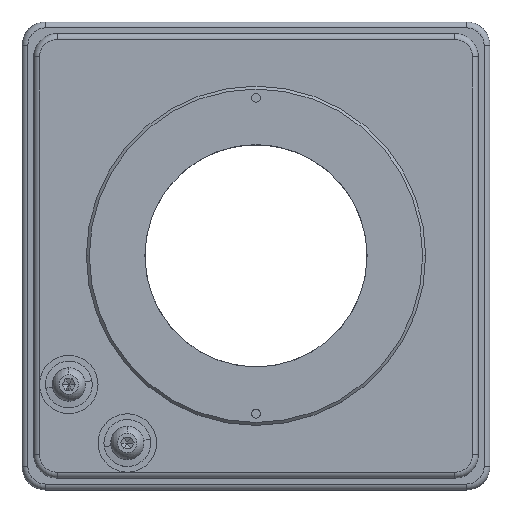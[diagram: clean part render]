
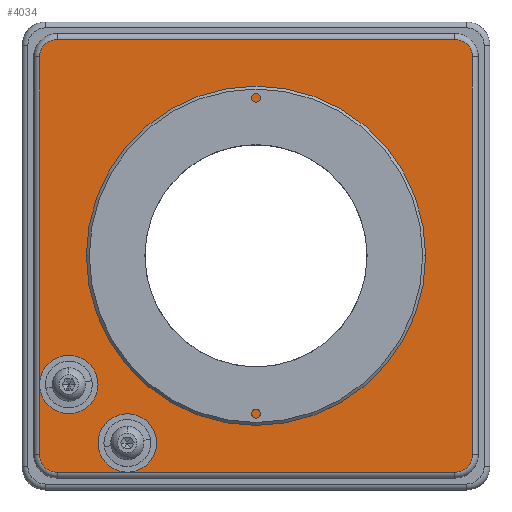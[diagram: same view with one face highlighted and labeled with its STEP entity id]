
A CAD part, top view. The second image highlights one B-rep face of the part: STEP entity #4034.
In plain terms, the highlighted planar face has unit normal (0, 0, 1).
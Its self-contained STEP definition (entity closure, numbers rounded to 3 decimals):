
#60 = VERTEX_POINT ( 'NONE', #3739 ) ;
#125 = CARTESIAN_POINT ( 'NONE',  ( -37., -34., 18. ) ) ;
#128 = ORIENTED_EDGE ( 'NONE', *, *, #5477, .F. ) ;
#129 = DIRECTION ( 'NONE',  ( -1., 0., 0. ) ) ;
#141 = AXIS2_PLACEMENT_3D ( 'NONE', #5237, #952, #1555 ) ;
#289 = VERTEX_POINT ( 'NONE', #3455 ) ;
#306 = CIRCLE ( 'NONE', #5666, 25.25 ) ;
#319 = CIRCLE ( 'NONE', #3096, 3. ) ;
#342 = CIRCLE ( 'NONE', #141, 3. ) ;
#391 = CIRCLE ( 'NONE', #1786, 25.25 ) ;
#425 = CARTESIAN_POINT ( 'NONE',  ( -34., 37., 18. ) ) ;
#487 = DIRECTION ( 'NONE',  ( 1., 0., 0. ) ) ;
#625 = VERTEX_POINT ( 'NONE', #8260 ) ;
#719 = EDGE_CURVE ( 'NONE', #7145, #3128, #319, .T. ) ;
#785 = VERTEX_POINT ( 'NONE', #2627 ) ;
#801 = CARTESIAN_POINT ( 'NONE',  ( -37., -22., 18. ) ) ;
#805 = EDGE_CURVE ( 'NONE', #1335, #785, #2628, .T. ) ;
#845 = VERTEX_POINT ( 'NONE', #3897 ) ;
#864 = VECTOR ( 'NONE', #5216, 1000. ) ;
#872 = VERTEX_POINT ( 'NONE', #1355 ) ;
#952 = DIRECTION ( 'NONE',  ( 0., 0., 1. ) ) ;
#1029 = DIRECTION ( 'NONE',  ( 0., 0., 1. ) ) ;
#1032 = DIRECTION ( 'NONE',  ( 1., 0., 0. ) ) ;
#1168 = ORIENTED_EDGE ( 'NONE', *, *, #6174, .T. ) ;
#1185 = VECTOR ( 'NONE', #4415, 1000. ) ;
#1228 = CARTESIAN_POINT ( 'NONE',  ( -37., -34., 18. ) ) ;
#1276 = CARTESIAN_POINT ( 'NONE',  ( 0., 0., 18. ) ) ;
#1296 = VERTEX_POINT ( 'NONE', #2309 ) ;
#1322 = DIRECTION ( 'NONE',  ( 0., 0., 1. ) ) ;
#1325 = DIRECTION ( 'NONE',  ( 0., 0., 1. ) ) ;
#1335 = VERTEX_POINT ( 'NONE', #5122 ) ;
#1355 = CARTESIAN_POINT ( 'NONE',  ( -25.25, 0., 18. ) ) ;
#1399 = CARTESIAN_POINT ( 'NONE',  ( 37., 34., 18. ) ) ;
#1401 = DIRECTION ( 'NONE',  ( 0., -1., 0. ) ) ;
#1555 = DIRECTION ( 'NONE',  ( 1., 0., 0. ) ) ;
#1643 = EDGE_CURVE ( 'NONE', #785, #289, #1701, .T. ) ;
#1701 = LINE ( 'NONE', #425, #8336 ) ;
#1705 = CIRCLE ( 'NONE', #2509, 5. ) ;
#1722 = DIRECTION ( 'NONE',  ( 0., 0., 1. ) ) ;
#1786 = AXIS2_PLACEMENT_3D ( 'NONE', #1276, #5788, #1934 ) ;
#1853 = FACE_OUTER_BOUND ( 'NONE', #3756, .T. ) ;
#1897 = DIRECTION ( 'NONE',  ( 1., 0., 0. ) ) ;
#1902 = EDGE_CURVE ( 'NONE', #4104, #845, #6728, .T. ) ;
#1911 = LINE ( 'NONE', #2624, #5342 ) ;
#1934 = DIRECTION ( 'NONE',  ( 1., 0., 0. ) ) ;
#2127 = EDGE_CURVE ( 'NONE', #2440, #7145, #4701, .T. ) ;
#2163 = CARTESIAN_POINT ( 'NONE',  ( -17., -32., 18. ) ) ;
#2167 = LINE ( 'NONE', #125, #3670 ) ;
#2309 = CARTESIAN_POINT ( 'NONE',  ( -34., -37., 18. ) ) ;
#2348 = DIRECTION ( 'NONE',  ( 0., 0., 1. ) ) ;
#2413 = CIRCLE ( 'NONE', #6715, 5. ) ;
#2440 = VERTEX_POINT ( 'NONE', #7290 ) ;
#2501 = VERTEX_POINT ( 'NONE', #2163 ) ;
#2509 = AXIS2_PLACEMENT_3D ( 'NONE', #6819, #3597, #1032 ) ;
#2542 = PLANE ( 'NONE',  #6022 ) ;
#2624 = CARTESIAN_POINT ( 'NONE',  ( 34., -37., 18. ) ) ;
#2627 = CARTESIAN_POINT ( 'NONE',  ( 34., 37., 18. ) ) ;
#2628 = CIRCLE ( 'NONE', #6566, 3. ) ;
#2722 = ORIENTED_EDGE ( 'NONE', *, *, #3192, .F. ) ;
#2879 = CIRCLE ( 'NONE', #7667, 3. ) ;
#2926 = CARTESIAN_POINT ( 'NONE',  ( 34., -37., 18. ) ) ;
#3096 = AXIS2_PLACEMENT_3D ( 'NONE', #6866, #2348, #6214 ) ;
#3128 = VERTEX_POINT ( 'NONE', #6949 ) ;
#3192 = EDGE_CURVE ( 'NONE', #872, #4161, #306, .T. ) ;
#3196 = ORIENTED_EDGE ( 'NONE', *, *, #805, .T. ) ;
#3276 = ORIENTED_EDGE ( 'NONE', *, *, #7399, .T. ) ;
#3317 = DIRECTION ( 'NONE',  ( 0., 0., 1. ) ) ;
#3363 = DIRECTION ( 'NONE',  ( 1., 0., 0. ) ) ;
#3410 = EDGE_CURVE ( 'NONE', #3486, #1296, #2879, .T. ) ;
#3455 = CARTESIAN_POINT ( 'NONE',  ( -34., 37., 18. ) ) ;
#3486 = VERTEX_POINT ( 'NONE', #3812 ) ;
#3524 = DIRECTION ( 'NONE',  ( 1., 0., 0. ) ) ;
#3597 = DIRECTION ( 'NONE',  ( 0., 0., 1. ) ) ;
#3670 = VECTOR ( 'NONE', #1401, 1000. ) ;
#3671 = EDGE_CURVE ( 'NONE', #289, #60, #342, .T. ) ;
#3739 = CARTESIAN_POINT ( 'NONE',  ( -37., 34., 18. ) ) ;
#3756 = EDGE_LOOP ( 'NONE', ( #3788, #5147, #7812, #4945, #6212, #4365, #128, #4184, #6678, #3276, #3196, #6616, #5497, #1168, #3828 ) ) ;
#3788 = ORIENTED_EDGE ( 'NONE', *, *, #1902, .F. ) ;
#3812 = CARTESIAN_POINT ( 'NONE',  ( -37., -34., 18. ) ) ;
#3828 = ORIENTED_EDGE ( 'NONE', *, *, #4613, .F. ) ;
#3897 = CARTESIAN_POINT ( 'NONE',  ( -27., -22., 18. ) ) ;
#4016 = CARTESIAN_POINT ( 'NONE',  ( -22., -32., 18. ) ) ;
#4034 = ADVANCED_FACE ( 'NONE', ( #1853, #7053 ), #2542, .T. ) ;
#4042 = CARTESIAN_POINT ( 'NONE',  ( -32., -22., 18. ) ) ;
#4104 = VERTEX_POINT ( 'NONE', #801 ) ;
#4161 = VERTEX_POINT ( 'NONE', #7284 ) ;
#4167 = EDGE_CURVE ( 'NONE', #625, #2440, #2413, .T. ) ;
#4184 = ORIENTED_EDGE ( 'NONE', *, *, #2127, .T. ) ;
#4316 = DIRECTION ( 'NONE',  ( 0., 0., 1. ) ) ;
#4365 = ORIENTED_EDGE ( 'NONE', *, *, #8069, .F. ) ;
#4374 = ORIENTED_EDGE ( 'NONE', *, *, #8204, .F. ) ;
#4387 = EDGE_CURVE ( 'NONE', #4104, #3486, #6345, .T. ) ;
#4415 = DIRECTION ( 'NONE',  ( 0., -1., 0. ) ) ;
#4558 = AXIS2_PLACEMENT_3D ( 'NONE', #6887, #4316, #487 ) ;
#4613 = EDGE_CURVE ( 'NONE', #845, #4104, #1705, .T. ) ;
#4617 = DIRECTION ( 'NONE',  ( 1., 0., 0. ) ) ;
#4701 = LINE ( 'NONE', #5250, #864 ) ;
#4824 = CIRCLE ( 'NONE', #6690, 5. ) ;
#4945 = ORIENTED_EDGE ( 'NONE', *, *, #7725, .T. ) ;
#5122 = CARTESIAN_POINT ( 'NONE',  ( 37., 34., 18. ) ) ;
#5147 = ORIENTED_EDGE ( 'NONE', *, *, #4387, .T. ) ;
#5191 = DIRECTION ( 'NONE',  ( 1., 0., 0. ) ) ;
#5216 = DIRECTION ( 'NONE',  ( 1., 0., 0. ) ) ;
#5237 = CARTESIAN_POINT ( 'NONE',  ( -34., 34., 18. ) ) ;
#5250 = CARTESIAN_POINT ( 'NONE',  ( 34., -37., 18. ) ) ;
#5269 = DIRECTION ( 'NONE',  ( 0., 1., 0. ) ) ;
#5342 = VECTOR ( 'NONE', #3524, 1000. ) ;
#5477 = EDGE_CURVE ( 'NONE', #2440, #2501, #5517, .T. ) ;
#5486 = LINE ( 'NONE', #1399, #6984 ) ;
#5497 = ORIENTED_EDGE ( 'NONE', *, *, #3671, .T. ) ;
#5517 = CIRCLE ( 'NONE', #4558, 5. ) ;
#5560 = DIRECTION ( 'NONE',  ( 1., 0., 0. ) ) ;
#5576 = DIRECTION ( 'NONE',  ( 1., 0., 0. ) ) ;
#5666 = AXIS2_PLACEMENT_3D ( 'NONE', #6220, #1722, #5576 ) ;
#5788 = DIRECTION ( 'NONE',  ( 0., 0., 1. ) ) ;
#5803 = EDGE_LOOP ( 'NONE', ( #4374, #2722 ) ) ;
#5846 = DIRECTION ( 'NONE',  ( 1., 0., 0. ) ) ;
#5848 = CARTESIAN_POINT ( 'NONE',  ( -34., -34., 18. ) ) ;
#6022 = AXIS2_PLACEMENT_3D ( 'NONE', #8307, #7017, #1897 ) ;
#6174 = EDGE_CURVE ( 'NONE', #60, #4104, #2167, .T. ) ;
#6212 = ORIENTED_EDGE ( 'NONE', *, *, #4167, .F. ) ;
#6214 = DIRECTION ( 'NONE',  ( 1., 0., 0. ) ) ;
#6220 = CARTESIAN_POINT ( 'NONE',  ( 0., 0., 18. ) ) ;
#6345 = LINE ( 'NONE', #1228, #1185 ) ;
#6486 = CARTESIAN_POINT ( 'NONE',  ( 34., 34., 18. ) ) ;
#6566 = AXIS2_PLACEMENT_3D ( 'NONE', #6486, #1322, #5846 ) ;
#6616 = ORIENTED_EDGE ( 'NONE', *, *, #1643, .T. ) ;
#6678 = ORIENTED_EDGE ( 'NONE', *, *, #719, .T. ) ;
#6690 = AXIS2_PLACEMENT_3D ( 'NONE', #8103, #1029, #5560 ) ;
#6715 = AXIS2_PLACEMENT_3D ( 'NONE', #4016, #7889, #3363 ) ;
#6728 = CIRCLE ( 'NONE', #8344, 5. ) ;
#6819 = CARTESIAN_POINT ( 'NONE',  ( -32., -22., 18. ) ) ;
#6866 = CARTESIAN_POINT ( 'NONE',  ( 34., -34., 18. ) ) ;
#6887 = CARTESIAN_POINT ( 'NONE',  ( -22., -32., 18. ) ) ;
#6949 = CARTESIAN_POINT ( 'NONE',  ( 37., -34., 18. ) ) ;
#6984 = VECTOR ( 'NONE', #5269, 1000. ) ;
#7017 = DIRECTION ( 'NONE',  ( 0., 0., 1. ) ) ;
#7053 = FACE_BOUND ( 'NONE', #5803, .T. ) ;
#7145 = VERTEX_POINT ( 'NONE', #2926 ) ;
#7284 = CARTESIAN_POINT ( 'NONE',  ( 25.25, 0., 18. ) ) ;
#7290 = CARTESIAN_POINT ( 'NONE',  ( -22., -37., 18. ) ) ;
#7399 = EDGE_CURVE ( 'NONE', #3128, #1335, #5486, .T. ) ;
#7667 = AXIS2_PLACEMENT_3D ( 'NONE', #5848, #1325, #5191 ) ;
#7725 = EDGE_CURVE ( 'NONE', #1296, #2440, #1911, .T. ) ;
#7812 = ORIENTED_EDGE ( 'NONE', *, *, #3410, .T. ) ;
#7889 = DIRECTION ( 'NONE',  ( 0., 0., 1. ) ) ;
#8069 = EDGE_CURVE ( 'NONE', #2501, #625, #4824, .T. ) ;
#8103 = CARTESIAN_POINT ( 'NONE',  ( -22., -32., 18. ) ) ;
#8204 = EDGE_CURVE ( 'NONE', #4161, #872, #391, .T. ) ;
#8260 = CARTESIAN_POINT ( 'NONE',  ( -27., -32., 18. ) ) ;
#8307 = CARTESIAN_POINT ( 'NONE',  ( -38., -38., 18. ) ) ;
#8336 = VECTOR ( 'NONE', #129, 1000. ) ;
#8344 = AXIS2_PLACEMENT_3D ( 'NONE', #4042, #3317, #4617 ) ;
